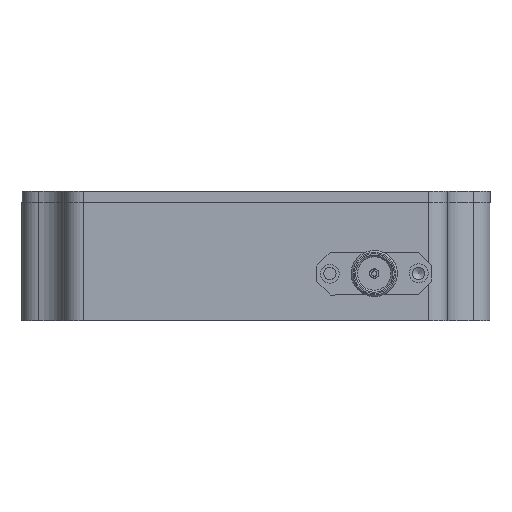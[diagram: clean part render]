
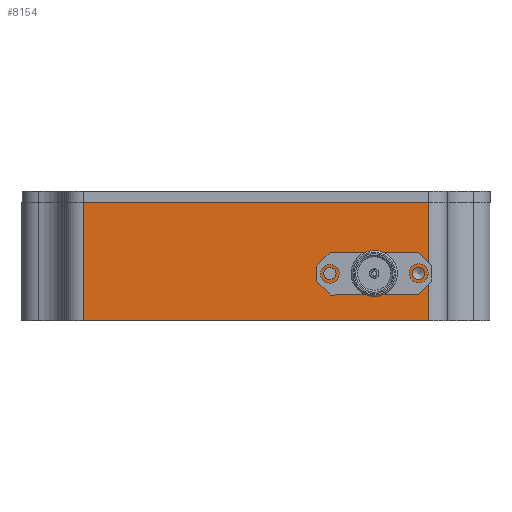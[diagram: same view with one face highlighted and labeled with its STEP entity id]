
A CAD part, left-side view. The second image highlights one B-rep face of the part: STEP entity #8154.
In plain terms, the highlighted planar face has unit normal (-1, 0, 0).
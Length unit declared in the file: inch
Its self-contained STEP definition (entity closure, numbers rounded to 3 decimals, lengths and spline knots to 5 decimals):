
#5096=CARTESIAN_POINT('',(-2.38,-0.935,0.0));
#5097=VERTEX_POINT('',#5096);
#5105=CARTESIAN_POINT('',(-2.38,0.935,0.0));
#5106=VERTEX_POINT('',#5105);
#5107=CARTESIAN_POINT('',(-2.38,-0.935,0.0));
#5108=DIRECTION('',(0.0,1.0,0.0));
#5109=VECTOR('',#5108,1.87);
#5110=LINE('',#5107,#5109);
#5111=EDGE_CURVE('',#5097,#5106,#5110,.T.);
#5417=CARTESIAN_POINT('',(-2.38,-0.4,0.2885));
#5418=VERTEX_POINT('',#5417);
#5419=CARTESIAN_POINT('',(-2.38,-0.4,0.255));
#5420=DIRECTION('',(1.0,0.0,0.0));
#5421=DIRECTION('',(0.0,0.0,1.0));
#5422=AXIS2_PLACEMENT_3D('',#5419,#5420,#5421);
#5423=CIRCLE('',#5422,0.0335);
#5424=EDGE_CURVE('',#5418,#5418,#5423,.T.);
#5451=CARTESIAN_POINT('',(-2.38,-0.88,0.2885));
#5452=VERTEX_POINT('',#5451);
#5453=CARTESIAN_POINT('',(-2.38,-0.88,0.255));
#5454=DIRECTION('',(1.0,0.0,0.0));
#5455=DIRECTION('',(0.0,0.0,1.0));
#5456=AXIS2_PLACEMENT_3D('',#5453,#5454,#5455);
#5457=CIRCLE('',#5456,0.0335);
#5458=EDGE_CURVE('',#5452,#5452,#5457,.T.);
#7025=CARTESIAN_POINT('',(-2.38,-0.64,0.338));
#7026=VERTEX_POINT('',#7025);
#7027=CARTESIAN_POINT('',(-2.38,-0.64,0.255));
#7028=DIRECTION('',(1.0,0.0,0.0));
#7029=DIRECTION('',(0.0,0.0,1.0));
#7030=AXIS2_PLACEMENT_3D('',#7027,#7028,#7029);
#7031=CIRCLE('',#7030,0.083);
#7032=EDGE_CURVE('',#7026,#7026,#7031,.T.);
#7969=CARTESIAN_POINT('',(-2.38,-0.935,0.64));
#7970=VERTEX_POINT('',#7969);
#7978=CARTESIAN_POINT('',(-2.38,-0.935,0.64));
#7979=DIRECTION('',(0.0,0.0,-1.0));
#7980=VECTOR('',#7979,0.64);
#7981=LINE('',#7978,#7980);
#7982=EDGE_CURVE('',#7970,#5097,#7981,.T.);
#7994=CARTESIAN_POINT('',(-2.38,0.935,0.64));
#7995=VERTEX_POINT('',#7994);
#8005=CARTESIAN_POINT('',(-2.38,0.935,0.0));
#8006=DIRECTION('',(0.0,0.0,1.0));
#8007=VECTOR('',#8006,0.64);
#8008=LINE('',#8005,#8007);
#8009=EDGE_CURVE('',#5106,#7995,#8008,.T.);
#8129=CARTESIAN_POINT('',(-2.38,1.035,0.0));
#8130=DIRECTION('',(-1.0,0.0,0.0));
#8131=DIRECTION('',(0.0,-1.0,0.0));
#8132=AXIS2_PLACEMENT_3D('',#8129,#8130,#8131);
#8133=PLANE('',#8132);
#8134=ORIENTED_EDGE('',*,*,#7982,.F.);
#8135=CARTESIAN_POINT('',(-2.38,0.935,0.64));
#8136=DIRECTION('',(0.0,-1.0,0.0));
#8137=VECTOR('',#8136,1.87);
#8138=LINE('',#8135,#8137);
#8139=EDGE_CURVE('',#7995,#7970,#8138,.T.);
#8140=ORIENTED_EDGE('',*,*,#8139,.F.);
#8141=ORIENTED_EDGE('',*,*,#8009,.F.);
#8142=ORIENTED_EDGE('',*,*,#5111,.F.);
#8143=EDGE_LOOP('',(#8134,#8140,#8141,#8142));
#8144=FACE_OUTER_BOUND('',#8143,.T.);
#8145=ORIENTED_EDGE('',*,*,#5424,.T.);
#8146=EDGE_LOOP('',(#8145));
#8147=FACE_BOUND('',#8146,.T.);
#8148=ORIENTED_EDGE('',*,*,#5458,.T.);
#8149=EDGE_LOOP('',(#8148));
#8150=FACE_BOUND('',#8149,.T.);
#8151=ORIENTED_EDGE('',*,*,#7032,.T.);
#8152=EDGE_LOOP('',(#8151));
#8153=FACE_BOUND('',#8152,.T.);
#8154=ADVANCED_FACE('',(#8144,#8147,#8150,#8153),#8133,.T.);
